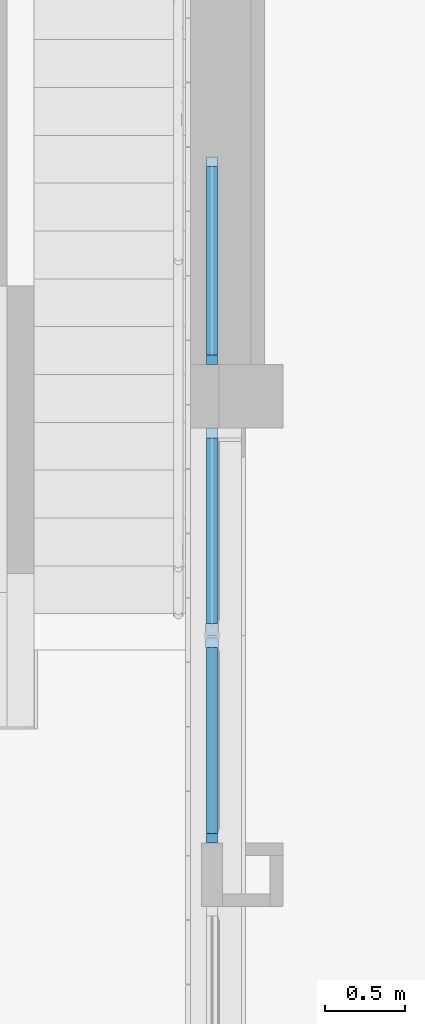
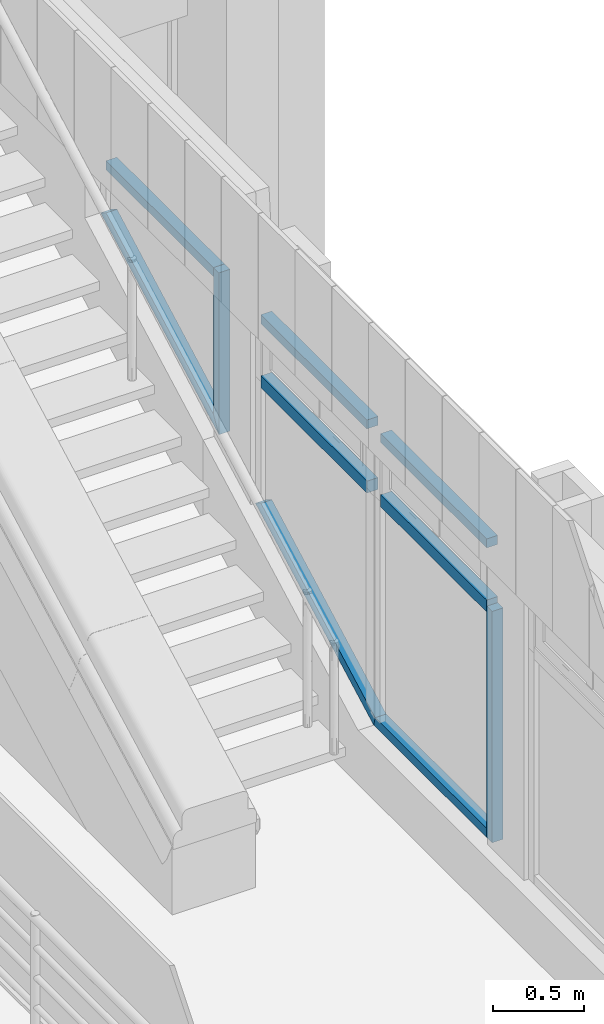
# One storey, part 4 of 16: 10 members, 2 elements without a shape of their own.
"""IFC2X3 building model written with IfcOpenShell, lengths in millimetres."""

from ifc_helpers import new_model, entity, si_unit, converted_unit, derived_unit, direction, frame, frame_2d, origin, place, context, subcontext, project, spatial, polyline, rectangle, outline, extrude, source, transform, mapped, material, type_object, type_shapes, element, aggregate, save


model = new_model("IFC2X3")

# Units and contexts
model_context = context("Model", 3, precision=0.01, world=origin(), true_north=direction((6.123031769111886e-17, 1.0)))
body_context = subcontext(model_context, "Body", "Model", "MODEL_VIEW")
ifc_project = project(units=[si_unit("LENGTHUNIT", "METRE", prefix="MILLI"), si_unit("AREAUNIT", "SQUARE_METRE"), si_unit("VOLUMEUNIT", "CUBIC_METRE"), converted_unit("PLANEANGLEUNIT", "DEGREE", entity("IfcPlaneAngleMeasure", 0.017453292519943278), si_unit("PLANEANGLEUNIT", "RADIAN"), dimensions=[0, 0, 0, 0, 0, 0, 0]), si_unit("MASSUNIT", "GRAM", prefix="KILO"), derived_unit("MASSDENSITYUNIT", [(si_unit("MASSUNIT", "GRAM", prefix="KILO"), 1), (si_unit("LENGTHUNIT", "METRE"), -3)]), derived_unit("IONCONCENTRATIONUNIT", [(si_unit("MASSUNIT", "GRAM", prefix="KILO"), 1), (si_unit("LENGTHUNIT", "METRE"), -3)]), derived_unit("MOMENTOFINERTIAUNIT", [(si_unit("LENGTHUNIT", "METRE"), 4)]), si_unit("TIMEUNIT", "SECOND"), si_unit("FREQUENCYUNIT", "HERTZ"), si_unit("THERMODYNAMICTEMPERATUREUNIT", "DEGREE_CELSIUS"), derived_unit("THERMALTRANSMITTANCEUNIT", [(si_unit("MASSUNIT", "GRAM", prefix="KILO"), 1), (si_unit("THERMODYNAMICTEMPERATUREUNIT", "KELVIN"), -1), (si_unit("TIMEUNIT", "SECOND"), -3)]), derived_unit("THERMALCONDUCTANCEUNIT", [(si_unit("MASSUNIT", "GRAM", prefix="KILO"), 1), (si_unit("THERMODYNAMICTEMPERATUREUNIT", "KELVIN"), -1), (si_unit("TIMEUNIT", "SECOND"), -3), (si_unit("LENGTHUNIT", "METRE"), 1)]), derived_unit("VOLUMETRICFLOWRATEUNIT", [(si_unit("LENGTHUNIT", "METRE", prefix="DECI"), 3), (si_unit("TIMEUNIT", "SECOND"), -1)]), derived_unit("MASSFLOWRATEUNIT", [(si_unit("MASSUNIT", "GRAM", prefix="KILO"), 1), (si_unit("TIMEUNIT", "SECOND"), -1)]), derived_unit("ROTATIONALFREQUENCYUNIT", [(si_unit("TIMEUNIT", "SECOND"), -1)]), si_unit("ELECTRICCURRENTUNIT", "AMPERE"), si_unit("ELECTRICVOLTAGEUNIT", "VOLT"), si_unit("POWERUNIT", "WATT"), si_unit("FORCEUNIT", "NEWTON", prefix="KILO"), si_unit("ILLUMINANCEUNIT", "LUX"), si_unit("LUMINOUSFLUXUNIT", "LUMEN"), si_unit("LUMINOUSINTENSITYUNIT", "CANDELA"), si_unit("ENERGYUNIT", "JOULE"), derived_unit("USERDEFINED", [(si_unit("MASSUNIT", "GRAM", prefix="KILO"), -1), (si_unit("LENGTHUNIT", "METRE"), -2), (si_unit("TIMEUNIT", "SECOND"), 3), (si_unit("LUMINOUSFLUXUNIT", "LUMEN"), 1)]), derived_unit("USERDEFINED", [(si_unit("MASSUNIT", "GRAM", prefix="KILO"), 1), (si_unit("TIMEUNIT", "SECOND"), -3), (si_unit("LENGTHUNIT", "METRE"), 3), (si_unit("ELECTRICCURRENTUNIT", "AMPERE"), -2)]), derived_unit("SOUNDPOWERUNIT", [(si_unit("MASSUNIT", "GRAM", prefix="KILO"), 1), (si_unit("TIMEUNIT", "SECOND"), -3), (si_unit("LENGTHUNIT", "METRE"), 2)]), derived_unit("SOUNDPRESSUREUNIT", [(si_unit("MASSUNIT", "GRAM", prefix="KILO"), 1), (si_unit("LENGTHUNIT", "METRE"), -1), (si_unit("TIMEUNIT", "SECOND"), -2)]), derived_unit("LINEARVELOCITYUNIT", [(si_unit("LENGTHUNIT", "METRE"), 1), (si_unit("TIMEUNIT", "SECOND"), -1)]), si_unit("PRESSUREUNIT", "PASCAL"), derived_unit("USERDEFINED", [(si_unit("MASSUNIT", "GRAM", prefix="KILO"), 1), (si_unit("LENGTHUNIT", "METRE"), -2), (si_unit("TIMEUNIT", "SECOND"), -2)]), derived_unit("LINEARFORCEUNIT", [(si_unit("MASSUNIT", "GRAM", prefix="KILO"), 1), (si_unit("TIMEUNIT", "SECOND"), -2)]), derived_unit("PLANARFORCEUNIT", [(si_unit("MASSUNIT", "GRAM", prefix="KILO"), 1), (si_unit("LENGTHUNIT", "METRE"), -1), (si_unit("TIMEUNIT", "SECOND"), -2)]), derived_unit("SPECIFICHEATCAPACITYUNIT", [(si_unit("THERMODYNAMICTEMPERATUREUNIT", "KELVIN"), -1), (si_unit("LENGTHUNIT", "METRE"), 2), (si_unit("TIMEUNIT", "SECOND"), -2)]), derived_unit("HEATFLUXDENSITYUNIT", [(si_unit("MASSUNIT", "GRAM", prefix="KILO"), 1), (si_unit("TIMEUNIT", "SECOND"), -3)]), derived_unit("HEATINGVALUEUNIT", [(si_unit("LENGTHUNIT", "METRE"), 2), (si_unit("TIMEUNIT", "SECOND"), -2)]), derived_unit("VAPORPERMEABILITYUNIT", [(si_unit("LENGTHUNIT", "METRE"), -1), (si_unit("TIMEUNIT", "SECOND"), 1)]), derived_unit("DYNAMICVISCOSITYUNIT", [(si_unit("MASSUNIT", "GRAM", prefix="KILO"), 1), (si_unit("TIMEUNIT", "SECOND"), -1), (si_unit("LENGTHUNIT", "METRE"), -1)]), derived_unit("THERMALEXPANSIONCOEFFICIENTUNIT", [(si_unit("THERMODYNAMICTEMPERATUREUNIT", "KELVIN"), -1)]), derived_unit("MODULUSOFELASTICITYUNIT", [(si_unit("MASSUNIT", "GRAM", prefix="KILO"), 1), (si_unit("LENGTHUNIT", "METRE"), -1), (si_unit("TIMEUNIT", "SECOND"), -2)]), derived_unit("ISOTHERMALMOISTURECAPACITYUNIT", [(si_unit("MASSUNIT", "GRAM", prefix="KILO"), -1), (si_unit("LENGTHUNIT", "METRE"), 3)]), derived_unit("MOISTUREDIFFUSIVITYUNIT", [(si_unit("TIMEUNIT", "SECOND"), -1), (si_unit("LENGTHUNIT", "METRE"), 2)]), derived_unit("MASSPERLENGTHUNIT", [(si_unit("MASSUNIT", "GRAM", prefix="KILO"), 1), (si_unit("LENGTHUNIT", "METRE"), -1)]), derived_unit("THERMALRESISTANCEUNIT", [(si_unit("MASSUNIT", "GRAM", prefix="KILO"), -1), (si_unit("TIMEUNIT", "SECOND"), 3), (si_unit("THERMODYNAMICTEMPERATUREUNIT", "KELVIN"), 1)]), derived_unit("ACCELERATIONUNIT", [(si_unit("LENGTHUNIT", "METRE"), 1), (si_unit("TIMEUNIT", "SECOND"), -2)]), derived_unit("ANGULARVELOCITYUNIT", [(si_unit("TIMEUNIT", "SECOND"), -1), (si_unit("PLANEANGLEUNIT", "RADIAN"), 1)]), derived_unit("LINEARSTIFFNESSUNIT", [(si_unit("MASSUNIT", "GRAM", prefix="KILO"), 1), (si_unit("TIMEUNIT", "SECOND"), -2)]), derived_unit("WARPINGCONSTANTUNIT", [(si_unit("LENGTHUNIT", "METRE"), 6)]), derived_unit("LINEARMOMENTUNIT", [(si_unit("MASSUNIT", "GRAM", prefix="KILO"), 1), (si_unit("LENGTHUNIT", "METRE"), 1), (si_unit("TIMEUNIT", "SECOND"), -2)]), derived_unit("TORQUEUNIT", [(si_unit("MASSUNIT", "GRAM", prefix="KILO"), 1), (si_unit("LENGTHUNIT", "METRE"), 2), (si_unit("TIMEUNIT", "SECOND"), -2)])], contexts=[model_context])

# Site, building, storey
site_placement = place(None, origin())
site = spatial("IfcSite", under=ifc_project, at=site_placement, Name="Default", CompositionType="ELEMENT")
building_placement = place(site_placement, origin())
building = spatial("IfcBuilding", under=site, at=building_placement, Name="Eesti Rahvusraamatukogu hoone renoveerimise projekteerimistööd", CompositionType="ELEMENT")
storey_placement = place(building_placement, frame((0.0, 0.0, 8250.000000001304)))
storey = spatial("IfcBuildingStorey", under=building, at=storey_placement, Name="3. korrus", CompositionType="ELEMENT", Elevation=8250.000000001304)

# Curtain wall, members
curtain_wall_type_1 = type_object("IfcCurtainWallType", Name="Curtain Wall:A-18", PredefinedType="NOTDEFINED")
curtain_wall_1_placement = place(storey_placement, frame((0.0, 0.0, -8250.000000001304)))
curtain_wall_1 = element("IfcCurtainWall", 1, at=curtain_wall_1_placement, inside=storey, type_object=curtain_wall_type_1, Name="Curtain Wall:A-18", ObjectType="Curtain Wall:A-18")
ifc_material = material(Name="LUMION_dark steel window frames")
member_type_1 = type_object("IfcMemberType", Name="Rectangular Mullion:NEW 60x70mm", PredefinedType="MULLION", material=ifc_material)
shared_shape_1 = source(origin(), body_context, "Body", "SweptSolid", [
    extrude(outline(polyline([(-517.1944349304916, -30.0), (567.4209496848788, -30.0), (466.96792017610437, 30.0), (-517.1944349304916, 30.0), (-517.1944349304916, -30.0)])), frame((-30.0, -35.0, -517.1944349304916), z_axis=(0.0, 1.0, 0.0), x_axis=(0.0, 0.0, -1.0)), (0.0, 0.0, 1.0), 70.00000000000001),
])
type_shapes(member_type_1, [shared_shape_1])
member_1_placement = place(curtain_wall_1_placement, frame((-33635.0, 42590.0, 10850.000000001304), z_axis=(0.0, 0.0, 1.0), x_axis=(0.0, -1.0, 0.0)))
member_1 = element("IfcMember", 2, at=member_1_placement, type_object=member_type_1, material=ifc_material, Name="Rectangular Mullion:NEW 60x70mm", ObjectType="Rectangular Mullion:NEW 60x70mm", context=body_context, shape_type="MappedRepresentation", body=[
    mapped(shared_shape_1, transform((0.0, 0.0, 0.0), scale=1.0)),
])
member_type_2 = type_object("IfcMemberType", Name="Rectangular Mullion:NEW 60x70mm", PredefinedType="MULLION", material=ifc_material)
shared_shape_2 = source(origin(), body_context, "Body", "SweptSolid", [
    extrude(rectangle(XDim=60.0, YDim=70.0, at=frame_2d((0.0, 3.552713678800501e-15), x_axis=(1.0, 0.0))), frame((-30.0, 0.0, -1180.0), z_axis=(0.0, 0.0, 1.0), x_axis=(-1.0, 0.0, 0.0)), (0.0, 0.0, 1.0), 1179.999999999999),
])
type_shapes(member_type_2, [shared_shape_2])
member_2_placement = place(curtain_wall_1_placement, frame((-33635.0, 43830.0, 10850.000000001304), z_axis=(0.0, 1.0, 0.0), x_axis=(0.0, 0.0, 1.0)))
member_2 = element("IfcMember", 3, at=member_2_placement, type_object=member_type_2, material=ifc_material, Name="Rectangular Mullion:NEW 60x70mm", ObjectType="Rectangular Mullion:NEW 60x70mm", context=body_context, shape_type="MappedRepresentation", body=[
    mapped(shared_shape_2, transform((0.0, 0.0, 0.0), scale=1.0)),
])
member_type_3 = type_object("IfcMemberType", Name="Rectangular Mullion:NEW 60x70mm", PredefinedType="MULLION", material=ifc_material)
shared_shape_3 = source(origin(), body_context, "Body", "SweptSolid", [
    extrude(outline(polyline([(-754.3949991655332, -30.0), (722.0873068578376, -30.0), (686.2496619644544, 30.0), (-653.9419696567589, 30.0), (-754.3949991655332, -30.0)])), frame((-30.0, -35.0, -754.3949991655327), z_axis=(0.0, 1.0, 0.0), x_axis=(0.0, 0.0, -1.0)), (0.0, 0.0, 1.0), 70.00000000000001),
])
type_shapes(member_type_3, [shared_shape_3])
member_3_placement = place(curtain_wall_1_placement, frame((-33635.0, 42590.0, 9765.384615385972), z_axis=(0.0, -0.8804710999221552, -0.4740998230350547), x_axis=(0.0, 0.4740998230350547, -0.8804710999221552)))
member_3 = element("IfcMember", 4, at=member_3_placement, type_object=member_type_3, material=ifc_material, Name="Rectangular Mullion:NEW 60x70mm", ObjectType="Rectangular Mullion:NEW 60x70mm", context=body_context, shape_type="MappedRepresentation", body=[
    mapped(shared_shape_3, transform((0.0, 0.0, 0.0), scale=1.0)),
])
aggregate(curtain_wall_1, [member_1, member_2, member_3])

curtain_wall_type_2 = type_object("IfcCurtainWallType", Name="Curtain Wall:A-17", PredefinedType="NOTDEFINED")
curtain_wall_2_placement = place(storey_placement, frame((0.0, 0.0, -8250.000000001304)))
curtain_wall_2 = element("IfcCurtainWall", 5, at=curtain_wall_2_placement, inside=storey, type_object=curtain_wall_type_2, Name="Curtain Wall:A-17", ObjectType="Curtain Wall:A-17")
member_type_4 = type_object("IfcMemberType", Name="Rectangular Mullion:NEW 80x70mm", PredefinedType="MULLION", material=ifc_material)
shared_shape_4 = source(origin(), body_context, "Body", "SweptSolid", [
    extrude(rectangle(XDim=80.0, YDim=70.0, at=frame_2d((0.0, -3.552713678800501e-15), x_axis=(1.0, 0.0))), frame((0.0, 0.0, -1165.0), z_axis=(0.0, 0.0, 1.0), x_axis=(-1.0, 0.0, 0.0)), (0.0, 0.0, 1.0), 1165.000000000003),
])
type_shapes(member_type_4, [shared_shape_4])
member_4_placement = place(curtain_wall_2_placement, frame((-33635.0, 42130.0, 10400.000000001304), z_axis=(0.0, 1.0, 0.0), x_axis=(0.0, 0.0, 1.0)))
member_4 = element("IfcMember", 6, at=member_4_placement, type_object=member_type_4, material=ifc_material, Name="Rectangular Mullion:NEW 80x70mm", ObjectType="Rectangular Mullion:NEW 80x70mm", context=body_context, shape_type="MappedRepresentation", body=[
    mapped(shared_shape_4, transform((0.0, 0.0, 0.0), scale=1.0)),
])
member_5_placement = place(curtain_wall_2_placement, frame((-33635.0, 40815.0, 10400.000000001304), z_axis=(0.0, 1.0, 0.0), x_axis=(0.0, 0.0, 1.0)))
member_5 = element("IfcMember", 7, at=member_5_placement, type_object=member_type_4, material=ifc_material, Name="Rectangular Mullion:NEW 80x70mm", ObjectType="Rectangular Mullion:NEW 80x70mm", context=body_context, shape_type="MappedRepresentation", body=[
    mapped(shared_shape_4, transform((0.0, 0.0, 0.0), scale=1.0)),
])
member_type_5 = type_object("IfcMemberType", Name="Rectangular Mullion:NEW 60x70mm", PredefinedType="MULLION", material=ifc_material)
shared_shape_5 = source(origin(), body_context, "Body", "SweptSolid", [
    extrude(rectangle(XDim=60.0, YDim=70.0, at=frame_2d((0.0, 3.552713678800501e-15), x_axis=(1.0, 0.0))), frame((-30.0, 0.0, -1550.0), z_axis=(0.0, 0.0, 1.0), x_axis=(-1.0, 0.0, 0.0)), (0.0, 0.0, 1.0), 1550.000000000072),
])
type_shapes(member_type_5, [shared_shape_5])
member_6_placement = place(curtain_wall_2_placement, frame((-33635.0, 39590.0, 10400.000000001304), z_axis=(0.0, 0.0, 1.0), x_axis=(0.0, -1.0, 0.0)))
member_6 = element("IfcMember", 8, at=member_6_placement, type_object=member_type_5, material=ifc_material, Name="Rectangular Mullion:NEW 60x70mm", ObjectType="Rectangular Mullion:NEW 60x70mm", context=body_context, shape_type="MappedRepresentation", body=[
    mapped(shared_shape_5, transform((0.0, 0.0, 0.0), scale=1.0)),
])
member_type_6 = type_object("IfcMemberType", Name="Rectangular Mullion:NEW 60x70mm", PredefinedType="MULLION", material=ifc_material)
shared_shape_6 = source(origin(), body_context, "Body", "SweptSolid", [
    extrude(rectangle(XDim=60.0, YDim=70.0, at=frame_2d((0.0, 3.552713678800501e-15), x_axis=(1.0, 0.0))), frame((-30.0, 0.0, -1165.0), z_axis=(0.0, 0.0, 1.0), x_axis=(-1.0, 0.0, 0.0)), (0.0, 0.0, 1.0), 1164.9999999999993),
])
type_shapes(member_type_6, [shared_shape_6])
member_7_placement = place(curtain_wall_2_placement, frame((-33635.0, 40815.0, 10850.000000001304), z_axis=(0.0, 1.0, 0.0), x_axis=(0.0, 0.0, 1.0)))
member_7 = element("IfcMember", 9, at=member_7_placement, type_object=member_type_6, material=ifc_material, Name="Rectangular Mullion:NEW 60x70mm", ObjectType="Rectangular Mullion:NEW 60x70mm", context=body_context, shape_type="MappedRepresentation", body=[
    mapped(shared_shape_6, transform((0.0, 0.0, 0.0), scale=1.0)),
])
member_8_placement = place(curtain_wall_2_placement, frame((-33635.0, 42130.0, 10850.000000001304), z_axis=(0.0, 1.0, 0.0), x_axis=(0.0, 0.0, 1.0)))
member_8 = element("IfcMember", 10, at=member_8_placement, type_object=member_type_6, material=ifc_material, Name="Rectangular Mullion:NEW 60x70mm", ObjectType="Rectangular Mullion:NEW 60x70mm", context=body_context, shape_type="MappedRepresentation", body=[
    mapped(shared_shape_6, transform((0.0, 0.0, 0.0), scale=1.0)),
])
member_type_7 = type_object("IfcMemberType", Name="Rectangular Mullion:NEW 60x70mm", PredefinedType="MULLION", material=ifc_material)
shared_shape_7 = source(origin(), body_context, "Body", "SweptSolid", [
    extrude(outline(polyline([(-616.2182362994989, -30.0), (623.7817637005, -30.0), (608.654708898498, 30.0), (-616.2182362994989, 30.0), (-616.2182362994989, -30.0)])), frame((-30.0, -35.0, -616.2182362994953), z_axis=(0.0, 1.0, 0.0), x_axis=(0.0, 0.0, -1.0)), (0.0, 0.0, 1.0), 70.00000000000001),
])
type_shapes(member_type_7, [shared_shape_7])
member_9_placement = place(curtain_wall_2_placement, frame((-33635.0, 39650.0, 8850.000000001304), z_axis=(0.0, -1.0, 0.0), x_axis=(0.0, 0.0, -1.0)))
member_9 = element("IfcMember", 11, at=member_9_placement, type_object=member_type_7, material=ifc_material, Name="Rectangular Mullion:NEW 60x70mm", ObjectType="Rectangular Mullion:NEW 60x70mm", context=body_context, shape_type="MappedRepresentation", body=[
    mapped(shared_shape_7, transform((0.0, 0.0, 0.0), scale=1.0)),
])
member_type_8 = type_object("IfcMemberType", Name="Rectangular Mullion:NEW 60x70mm", PredefinedType="MULLION", material=ifc_material)
shared_shape_8 = source(origin(), body_context, "Body", "SweptSolid", [
    extrude(outline(polyline([(-733.0635054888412, -30.0), (743.4188005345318, -30.0), (707.5811556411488, 30.0), (-717.9364506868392, 30.0), (-733.0635054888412, -30.0)])), frame((-30.0, -35.0, -733.0635054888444), z_axis=(0.0, 1.0, 0.0), x_axis=(0.0, 0.0, -1.0)), (0.0, 0.0, 1.0), 70.00000000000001),
])
type_shapes(member_type_8, [shared_shape_8])
member_10_placement = place(curtain_wall_2_placement, frame((-33635.0, 40890.0, 8850.000000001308), z_axis=(0.0, -0.880471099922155, -0.4740998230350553), x_axis=(0.0, 0.4740998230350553, -0.880471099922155)))
member_10 = element("IfcMember", 12, at=member_10_placement, type_object=member_type_8, material=ifc_material, Name="Rectangular Mullion:NEW 60x70mm", ObjectType="Rectangular Mullion:NEW 60x70mm", context=body_context, shape_type="MappedRepresentation", body=[
    mapped(shared_shape_8, transform((0.0, 0.0, 0.0), scale=1.0)),
])
aggregate(curtain_wall_2, [member_4, member_5, member_6, member_7, member_8, member_9, member_10])

save(model, "model.ifc")
